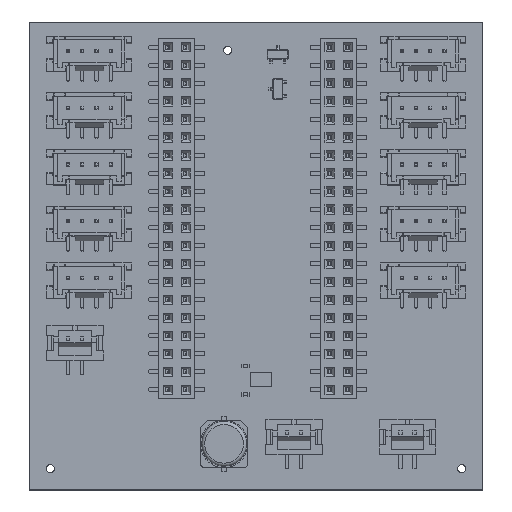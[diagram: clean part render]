
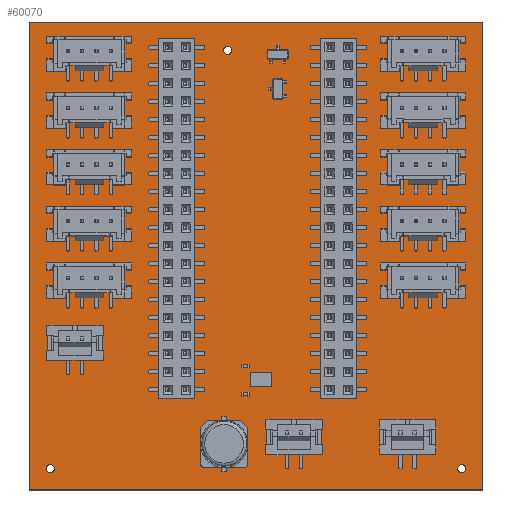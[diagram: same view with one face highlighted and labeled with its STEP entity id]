
A CAD part, top view. The second image highlights one B-rep face of the part: STEP entity #60070.
In plain terms, the highlighted planar face has unit normal (0, 0, 1).
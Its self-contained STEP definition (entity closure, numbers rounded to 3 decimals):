
#59881 = VERTEX_POINT('',#59882);
#59882 = CARTESIAN_POINT('',(94.,-100.5,1.6));
#59888 = EDGE_CURVE('',#59881,#59889,#59891,.T.);
#59889 = VERTEX_POINT('',#59890);
#59890 = CARTESIAN_POINT('',(30.,-100.5,1.6));
#59891 = LINE('',#59892,#59893);
#59892 = CARTESIAN_POINT('',(94.,-100.5,1.6));
#59893 = VECTOR('',#59894,1.);
#59894 = DIRECTION('',(-1.,0.,0.));
#59921 = VERTEX_POINT('',#59922);
#59922 = CARTESIAN_POINT('',(94.,-34.5,1.6));
#59928 = EDGE_CURVE('',#59921,#59881,#59929,.T.);
#59929 = LINE('',#59930,#59931);
#59930 = CARTESIAN_POINT('',(94.,-34.5,1.6));
#59931 = VECTOR('',#59932,1.);
#59932 = DIRECTION('',(0.,-1.,0.));
#59950 = EDGE_CURVE('',#59889,#59951,#59953,.T.);
#59951 = VERTEX_POINT('',#59952);
#59952 = CARTESIAN_POINT('',(30.,-34.5,1.6));
#59953 = LINE('',#59954,#59955);
#59954 = CARTESIAN_POINT('',(30.,-100.5,1.6));
#59955 = VECTOR('',#59956,1.);
#59956 = DIRECTION('',(0.,1.,0.));
#60070 = ADVANCED_FACE('',(#60071,#60082,#60093,#60104,#60115,#60126,
    #60137,#60148),#60159,.T.);
#60071 = FACE_BOUND('',#60072,.T.);
#60072 = EDGE_LOOP('',(#60073,#60074,#60075,#60081));
#60073 = ORIENTED_EDGE('',*,*,#59888,.F.);
#60074 = ORIENTED_EDGE('',*,*,#59928,.F.);
#60075 = ORIENTED_EDGE('',*,*,#60076,.F.);
#60076 = EDGE_CURVE('',#59951,#59921,#60077,.T.);
#60077 = LINE('',#60078,#60079);
#60078 = CARTESIAN_POINT('',(30.,-34.5,1.6));
#60079 = VECTOR('',#60080,1.);
#60080 = DIRECTION('',(1.,0.,0.));
#60081 = ORIENTED_EDGE('',*,*,#59950,.F.);
#60082 = FACE_BOUND('',#60083,.T.);
#60083 = EDGE_LOOP('',(#60084));
#60084 = ORIENTED_EDGE('',*,*,#60085,.T.);
#60085 = EDGE_CURVE('',#60086,#60086,#60088,.T.);
#60086 = VERTEX_POINT('',#60087);
#60087 = CARTESIAN_POINT('',(33.,-98.076,1.6));
#60088 = CIRCLE('',#60089,0.576);
#60089 = AXIS2_PLACEMENT_3D('',#60090,#60091,#60092);
#60090 = CARTESIAN_POINT('',(33.,-97.5,1.6));
#60091 = DIRECTION('',(-0.,0.,-1.));
#60092 = DIRECTION('',(-0.,-1.,0.));
#60093 = FACE_BOUND('',#60094,.T.);
#60094 = EDGE_LOOP('',(#60095));
#60095 = ORIENTED_EDGE('',*,*,#60096,.T.);
#60096 = EDGE_CURVE('',#60097,#60097,#60099,.T.);
#60097 = VERTEX_POINT('',#60098);
#60098 = CARTESIAN_POINT('',(50.82,-85.69,1.6));
#60099 = CIRCLE('',#60100,0.6);
#60100 = AXIS2_PLACEMENT_3D('',#60101,#60102,#60103);
#60101 = CARTESIAN_POINT('',(50.82,-85.09,1.6));
#60102 = DIRECTION('',(-0.,0.,-1.));
#60103 = DIRECTION('',(-0.,-1.,0.));
#60104 = FACE_BOUND('',#60105,.T.);
#60105 = EDGE_LOOP('',(#60106));
#60106 = ORIENTED_EDGE('',*,*,#60107,.T.);
#60107 = EDGE_CURVE('',#60108,#60108,#60110,.T.);
#60108 = VERTEX_POINT('',#60109);
#60109 = CARTESIAN_POINT('',(73.64,-85.69,1.6));
#60110 = CIRCLE('',#60111,0.6);
#60111 = AXIS2_PLACEMENT_3D('',#60112,#60113,#60114);
#60112 = CARTESIAN_POINT('',(73.64,-85.09,1.6));
#60113 = DIRECTION('',(-0.,0.,-1.));
#60114 = DIRECTION('',(-0.,-1.,0.));
#60115 = FACE_BOUND('',#60116,.T.);
#60116 = EDGE_LOOP('',(#60117));
#60117 = ORIENTED_EDGE('',*,*,#60118,.T.);
#60118 = EDGE_CURVE('',#60119,#60119,#60121,.T.);
#60119 = VERTEX_POINT('',#60120);
#60120 = CARTESIAN_POINT('',(91.,-98.076,1.6));
#60121 = CIRCLE('',#60122,0.576);
#60122 = AXIS2_PLACEMENT_3D('',#60123,#60124,#60125);
#60123 = CARTESIAN_POINT('',(91.,-97.5,1.6));
#60124 = DIRECTION('',(-0.,0.,-1.));
#60125 = DIRECTION('',(-0.,-1.,0.));
#60126 = FACE_BOUND('',#60127,.T.);
#60127 = EDGE_LOOP('',(#60128));
#60128 = ORIENTED_EDGE('',*,*,#60129,.T.);
#60129 = EDGE_CURVE('',#60130,#60130,#60132,.T.);
#60130 = VERTEX_POINT('',#60131);
#60131 = CARTESIAN_POINT('',(50.82,-39.97,1.6));
#60132 = CIRCLE('',#60133,0.6);
#60133 = AXIS2_PLACEMENT_3D('',#60134,#60135,#60136);
#60134 = CARTESIAN_POINT('',(50.82,-39.37,1.6));
#60135 = DIRECTION('',(-0.,0.,-1.));
#60136 = DIRECTION('',(-0.,-1.,0.));
#60137 = FACE_BOUND('',#60138,.T.);
#60138 = EDGE_LOOP('',(#60139));
#60139 = ORIENTED_EDGE('',*,*,#60140,.T.);
#60140 = EDGE_CURVE('',#60141,#60141,#60143,.T.);
#60141 = VERTEX_POINT('',#60142);
#60142 = CARTESIAN_POINT('',(58.,-39.076,1.6));
#60143 = CIRCLE('',#60144,0.576);
#60144 = AXIS2_PLACEMENT_3D('',#60145,#60146,#60147);
#60145 = CARTESIAN_POINT('',(58.,-38.5,1.6));
#60146 = DIRECTION('',(-0.,0.,-1.));
#60147 = DIRECTION('',(-0.,-1.,0.));
#60148 = FACE_BOUND('',#60149,.T.);
#60149 = EDGE_LOOP('',(#60150));
#60150 = ORIENTED_EDGE('',*,*,#60151,.T.);
#60151 = EDGE_CURVE('',#60152,#60152,#60154,.T.);
#60152 = VERTEX_POINT('',#60153);
#60153 = CARTESIAN_POINT('',(73.64,-39.97,1.6));
#60154 = CIRCLE('',#60155,0.6);
#60155 = AXIS2_PLACEMENT_3D('',#60156,#60157,#60158);
#60156 = CARTESIAN_POINT('',(73.64,-39.37,1.6));
#60157 = DIRECTION('',(-0.,0.,-1.));
#60158 = DIRECTION('',(-0.,-1.,0.));
#60159 = PLANE('',#60160);
#60160 = AXIS2_PLACEMENT_3D('',#60161,#60162,#60163);
#60161 = CARTESIAN_POINT('',(0.,0.,1.6));
#60162 = DIRECTION('',(0.,0.,1.));
#60163 = DIRECTION('',(1.,0.,-0.));
